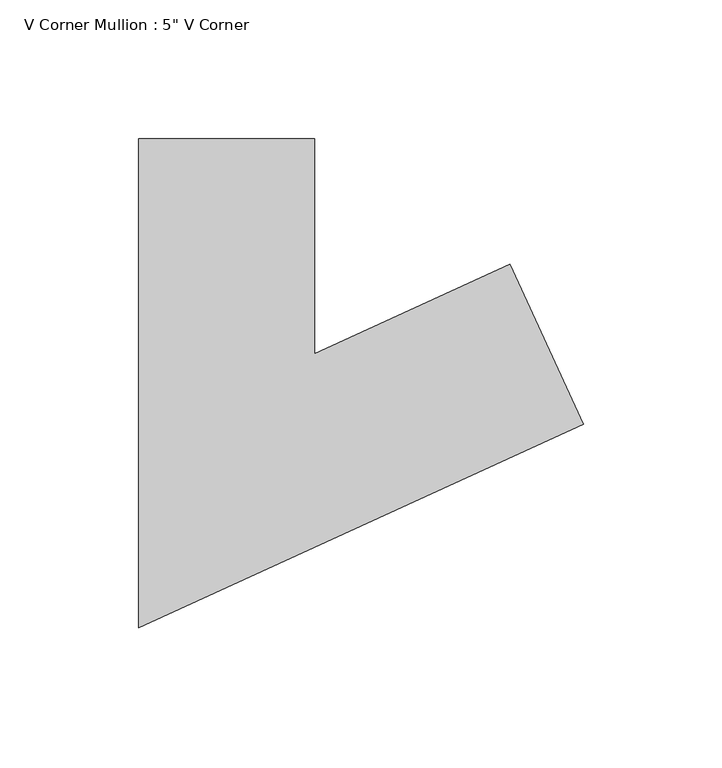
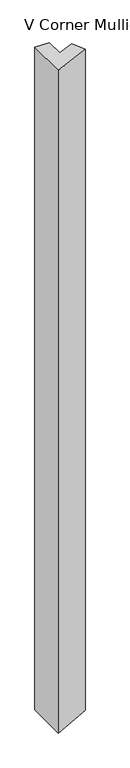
"""IFC4 building model written with IfcOpenShell, lengths in millimetres: member geometry."""

from ifc_helpers import new_model, si_unit, origin, place, context, project, spatial, faceted_brep, source, transform, mapped, element, save


def member_bb8a4726(model_context):
    return source(origin(), model_context, "Body", "Brep", [
        faceted_brep([(61.49523, 18.2208415, -1.8360683), (87.9205542, -39.5195451, -2.6250515), (87.9205542, -39.5195451, -3050.2898089), (61.49523, 18.2208415, -3051.242946), (-9.0228811, -14.0523047, 0.2693969), (-9.0228811, -14.0523047, -3053.7864694), (-9.0228811, 63.5, 0.2693969), (-9.0228811, 63.5, -3053.7864694), (-72.5228811, 63.5, 2.1653219), (-72.5228811, 63.5, -3056.0768559), (-72.5228811, -112.9476953, 2.1653219), (-72.5228811, -112.9476953, -3056.0768559)], [[[0, 1, 2, 3]], [[4, 0, 3, 5]], [[6, 4, 5, 7]], [[8, 6, 7, 9]], [[10, 8, 9, 11]], [[1, 10, 11, 2]], [[1, 0, 4, 6, 8, 10]], [[2, 11, 9, 7, 5, 3]]]),
    ])


if __name__ == "__main__":
    model = new_model("IFC4")
    model_context = context("Model", 3, world=origin())
    ifc_project = project(units=[si_unit("LENGTHUNIT", "METRE", prefix="MILLI")], contexts=[model_context])
    site = spatial("IfcSite", under=ifc_project)
    building = spatial("IfcBuilding", under=site)
    placement = place(None, origin())
    member_shape = member_bb8a4726(model_context)
    element("IfcMember", 1, ObjectType="V Corner Mullion : 5\" V Corner", at=placement, inside=building, context=model_context, shape_type="MappedRepresentation", body=[
        mapped(member_shape, transform((0.0, 0.0, 0.0), x_axis=(1.0, 0.0, 0.0), y_axis=(0.0, 1.0, 0.0), z_axis=(0.0, 0.0, 1.0))),
    ])
    save(model, "model.ifc")
